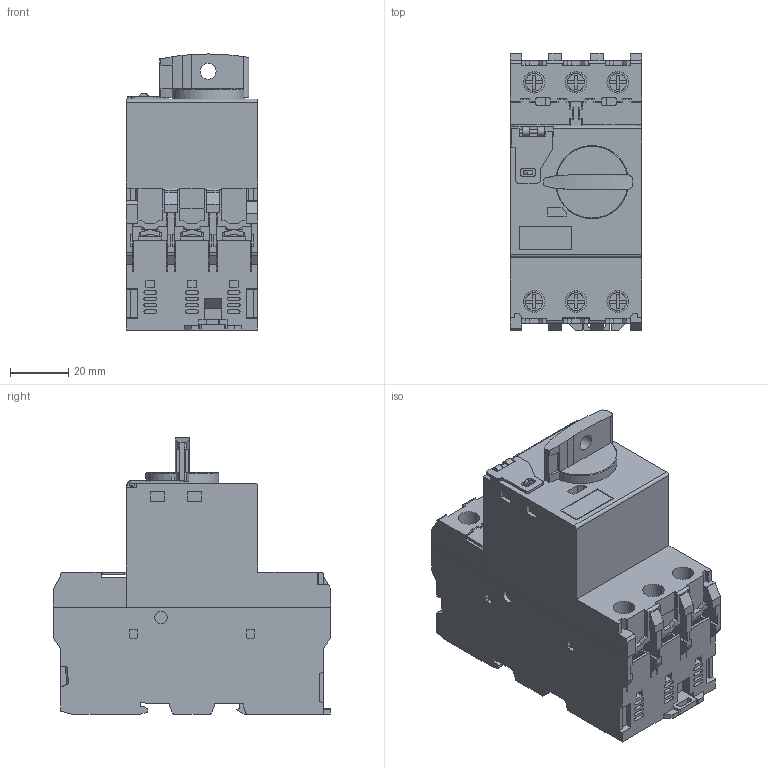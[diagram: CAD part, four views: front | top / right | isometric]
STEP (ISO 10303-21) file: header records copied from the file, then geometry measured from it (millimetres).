
FILE_DESCRIPTION (( 'STEP AP214' ), '1' );
FILE_NAME ('BM3RHB.STEP', '2015-05-13T02:27:16', ( '' ), ( '' ), 'SwSTEP 2.0', 'SolidWorks 2014', '' );
FILE_SCHEMA (( 'AUTOMOTIVE_DESIGN' ));
Length unit declared in the file: millimetre
Products named in the file (13): BM3RHB_Auxiliary_contact_Cover_Left; Screw_M4_Flat_L10; BM3RHB; BM3RHB_Tab; Plate_M4; BM3RHB_Case_Front_Cover; BM3RHB_Main Terminal Plate_Loadside; BM3RHB_Main Terminal Plate_Lineside; BM3RHB_Case_Front; BM3RHB_Front_Asm; BM3RHB_Case_back; BM3RHB_Auxiliary_contact_Cover_Right; BM3RHB_Rail_mounting_part
Assembly tree (26 placements, depth 3):
  BM3RHB
    BM3RHB_Case_back
    BM3RHB_Front_Asm
      BM3RHB_Case_Front
      BM3RHB_Case_Front_Cover
      BM3RHB_Tab
      BM3RHB_Auxiliary_contact_Cover_Left
      BM3RHB_Auxiliary_contact_Cover_Right
    BM3RHB_Main Terminal Plate_Lineside  x3
    BM3RHB_Main Terminal Plate_Loadside  x3
    Plate_M4  x6
    Screw_M4_Flat_L10  x6
    BM3RHB_Rail_mounting_part
Bounding box: 45 x 94.8 x 94.5 mm (x, y, z)
Volume: 231601.1 mm3; surface area: 57037.8 mm2
Topology: 25 solids, 25 shells, 1239 faces, 3393 edges, 2251 vertices
Faces by surface type: plane 965, cylinder 272, cone 2
Full cylindrical faces by diameter (mm): 1.6 x1, 4 x24, 4.2 x2, 5 x1, 5.5 x1, 6 x6, 7 x1, 7.4 x6, 7.5 x1, 25 x1
Entity records: 32853 total; most frequent: CARTESIAN_POINT 5841, ORIENTED_EDGE 5584, DIRECTION 5262, EDGE_CURVE 2792, VECTOR 2364, LINE 2364, VERTEX_POINT 1866, AXIS2_PLACEMENT_3D 1449
